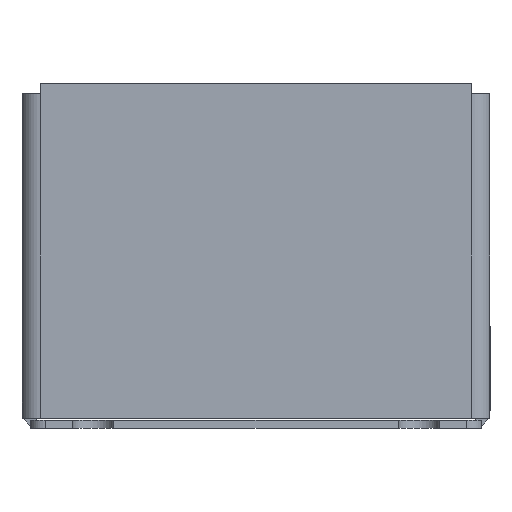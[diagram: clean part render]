
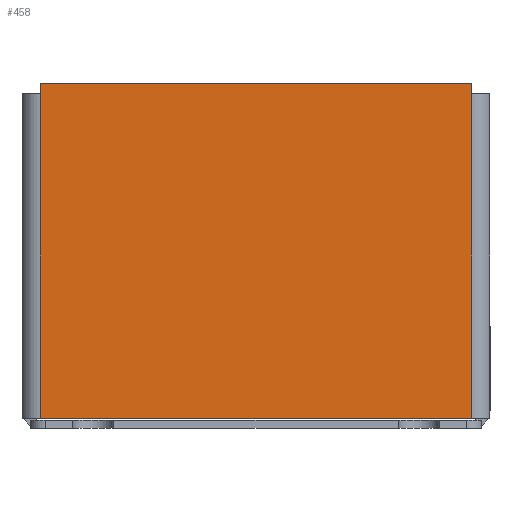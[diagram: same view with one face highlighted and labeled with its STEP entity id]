
A CAD part, front view. The second image highlights one B-rep face of the part: STEP entity #458.
In plain terms, the highlighted planar face has unit normal (0, -1, 0).
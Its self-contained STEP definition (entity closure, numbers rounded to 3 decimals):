
#458=ADVANCED_FACE('',(#1382),#1384,.F.);
#1382=FACE_BOUND('',#1383,.T.);
#1383=EDGE_LOOP('',(#2123,#2124,#2125,#2126,#2127,#2128));
#1384=PLANE('',#1385);
#1385=AXIS2_PLACEMENT_3D('',#1386,#1387,#1388);
#1386=CARTESIAN_POINT('',(-95.473,-75.,-20.473));
#1387=DIRECTION('',(0.,1.,0.));
#1388=DIRECTION('',(-1.,0.,0.));
#2123=ORIENTED_EDGE('',*,*,#2570,.T.);
#2124=ORIENTED_EDGE('',*,*,#2571,.T.);
#2125=ORIENTED_EDGE('',*,*,#2572,.F.);
#2126=ORIENTED_EDGE('',*,*,#2573,.F.);
#2127=ORIENTED_EDGE('',*,*,#2478,.T.);
#2128=ORIENTED_EDGE('',*,*,#2574,.T.);
#2478=EDGE_CURVE('',#2805,#2806,#2807,.T.);
#2570=EDGE_CURVE('',#2980,#2981,#2982,.T.);
#2571=EDGE_CURVE('',#2981,#2983,#2984,.T.);
#2572=EDGE_CURVE('',#2985,#2983,#2986,.T.);
#2573=EDGE_CURVE('',#2805,#2985,#2987,.T.);
#2574=EDGE_CURVE('',#2806,#2980,#2988,.T.);
#2805=VERTEX_POINT('',#3445);
#2806=VERTEX_POINT('',#3446);
#2807=LINE('',#3447,#3448);
#2980=VERTEX_POINT('',#3822);
#2981=VERTEX_POINT('',#3823);
#2982=LINE('',#3824,#3825);
#2983=VERTEX_POINT('',#3827);
#2984=LINE('',#3828,#3829);
#2985=VERTEX_POINT('',#3831);
#2986=LINE('',#3832,#3833);
#2987=LINE('',#3835,#3836);
#2988=LINE('',#3838,#3839);
#3445=CARTESIAN_POINT('',(-20.2,-75.,32.9));
#3446=CARTESIAN_POINT('',(-20.2,-75.,1.));
#3447=CARTESIAN_POINT('',(-20.2,-75.,32.9));
#3448=VECTOR('',#3449,1.);
#3449=DIRECTION('',(0.,0.,-1.));
#3822=CARTESIAN_POINT('',(22.197,-75.,1.));
#3823=CARTESIAN_POINT('',(22.197,-75.,32.9));
#3824=CARTESIAN_POINT('',(22.197,-75.,1.));
#3825=VECTOR('',#3826,1.);
#3826=DIRECTION('',(0.,0.,1.));
#3827=CARTESIAN_POINT('',(22.197,-75.,33.9));
#3828=CARTESIAN_POINT('',(22.197,-75.,32.9));
#3829=VECTOR('',#3830,1.);
#3830=DIRECTION('',(0.,0.,1.));
#3831=CARTESIAN_POINT('',(-20.2,-75.,33.9));
#3832=CARTESIAN_POINT('',(-20.2,-75.,33.9));
#3833=VECTOR('',#3834,1.);
#3834=DIRECTION('',(1.,0.,0.));
#3835=CARTESIAN_POINT('',(-20.2,-75.,32.9));
#3836=VECTOR('',#3837,1.);
#3837=DIRECTION('',(0.,0.,1.));
#3838=CARTESIAN_POINT('',(-20.2,-75.,1.));
#3839=VECTOR('',#3840,1.);
#3840=DIRECTION('',(1.,0.,0.));
